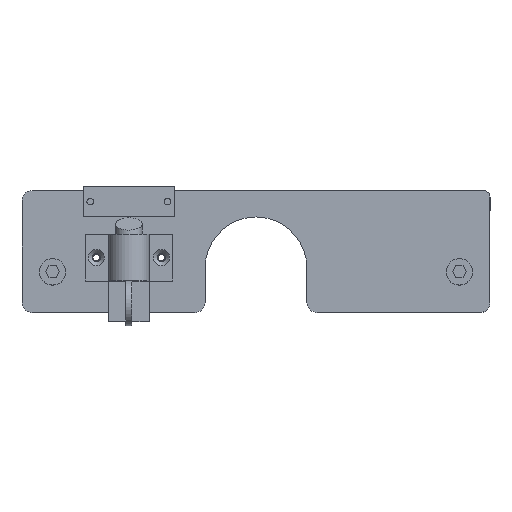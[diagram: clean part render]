
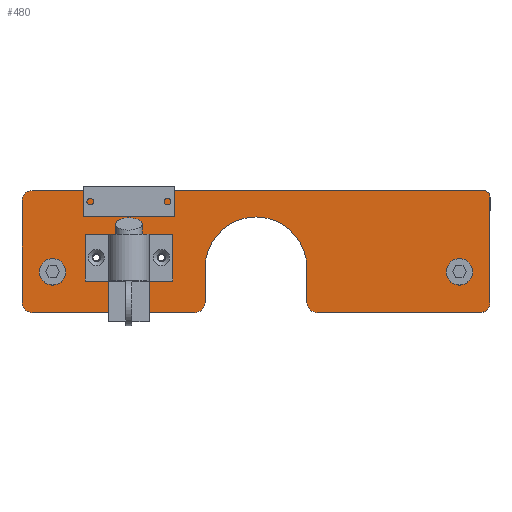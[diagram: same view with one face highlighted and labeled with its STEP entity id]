
A CAD part, top view. The second image highlights one B-rep face of the part: STEP entity #480.
In plain terms, the highlighted planar face has unit normal (0, 0, 1).
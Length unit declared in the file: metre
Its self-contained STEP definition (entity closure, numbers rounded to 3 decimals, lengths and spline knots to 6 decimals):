
#480=ADVANCED_FACE('411:4',(#876,#877,#878,#879,#880),#881,.F.);
#876=FACE_BOUND('',#1278,.T.);
#877=FACE_BOUND('',#1279,.T.);
#878=FACE_BOUND('',#1280,.T.);
#879=FACE_OUTER_BOUND('',#1281,.T.);
#880=FACE_BOUND('',#1282,.T.);
#881=PLANE('',#1283);
#1278=EDGE_LOOP('',(#1876));
#1279=EDGE_LOOP('',(#1877));
#1280=EDGE_LOOP('',(#1878));
#1281=EDGE_LOOP('',(#1879,#1880,#1881,#1882,#1883,#1884,#1885,#1886,#1887,#1888,#1889,#1890,#1891,#1892));
#1282=EDGE_LOOP('',(#1893));
#1283=AXIS2_PLACEMENT_3D('',#1894,#1895,#1896);
#1876=ORIENTED_EDGE('',*,*,#2469,.F.);
#1877=ORIENTED_EDGE('',*,*,#2470,.F.);
#1878=ORIENTED_EDGE('',*,*,#2471,.F.);
#1879=ORIENTED_EDGE('',*,*,#2472,.F.);
#1880=ORIENTED_EDGE('',*,*,#2473,.T.);
#1881=ORIENTED_EDGE('',*,*,#2474,.F.);
#1882=ORIENTED_EDGE('',*,*,#2475,.T.);
#1883=ORIENTED_EDGE('',*,*,#2476,.F.);
#1884=ORIENTED_EDGE('',*,*,#2477,.T.);
#1885=ORIENTED_EDGE('',*,*,#2478,.T.);
#1886=ORIENTED_EDGE('',*,*,#2479,.T.);
#1887=ORIENTED_EDGE('',*,*,#2480,.F.);
#1888=ORIENTED_EDGE('',*,*,#2481,.T.);
#1889=ORIENTED_EDGE('',*,*,#2482,.F.);
#1890=ORIENTED_EDGE('',*,*,#2483,.T.);
#1891=ORIENTED_EDGE('',*,*,#2484,.F.);
#1892=ORIENTED_EDGE('',*,*,#2485,.T.);
#1893=ORIENTED_EDGE('',*,*,#2486,.F.);
#1894=CARTESIAN_POINT('',(-0.184979,-0.058178,-0.030459));
#1895=DIRECTION('',(0.,0.,-1.0));
#1896=DIRECTION('',(0.,1.0,0.));
#2469=EDGE_CURVE('411:4913',#2865,#2865,#2866,.T.);
#2470=EDGE_CURVE('411:4819',#2867,#2867,#2868,.T.);
#2471=EDGE_CURVE('400:1758',#2869,#2869,#2870,.T.);
#2472=EDGE_CURVE('359:1297',#2871,#2872,#2873,.T.);
#2473=EDGE_CURVE('409:716',#2871,#2874,#2875,.F.);
#2474=EDGE_CURVE('399:979',#2876,#2874,#2877,.F.);
#2475=EDGE_CURVE('399:5409',#2876,#2878,#2879,.F.);
#2476=EDGE_CURVE('399:971',#2880,#2878,#2881,.T.);
#2477=EDGE_CURVE('399:1020',#2880,#2882,#2883,.T.);
#2478=EDGE_CURVE('399:1016',#2882,#2884,#2885,.T.);
#2479=EDGE_CURVE('399:6150',#2884,#2886,#2887,.F.);
#2480=EDGE_CURVE('399:1030',#2888,#2886,#2889,.F.);
#2481=EDGE_CURVE('399:8975',#2888,#2890,#2891,.F.);
#2482=EDGE_CURVE('359:1303',#2892,#2890,#2893,.T.);
#2483=EDGE_CURVE('399:10626',#2892,#2894,#2895,.F.);
#2484=EDGE_CURVE('359:1306',#2896,#2894,#2897,.T.);
#2485=EDGE_CURVE('399:11306',#2896,#2872,#2898,.F.);
#2486=EDGE_CURVE('400:848',#2899,#2899,#2900,.T.);
#2865=VERTEX_POINT('',#3438);
#2866=CIRCLE('',#3439,0.00165);
#2867=VERTEX_POINT('',#3440);
#2868=CIRCLE('',#3441,0.00165);
#2869=VERTEX_POINT('',#3442);
#2870=CIRCLE('',#3443,0.00425);
#2871=VERTEX_POINT('',#3444);
#2872=VERTEX_POINT('',#3445);
#2873=LINE('',#3446,#3447);
#2874=VERTEX_POINT('',#3448);
#2875=CIRCLE('',#3449,0.005);
#2876=VERTEX_POINT('',#3450);
#2877=LINE('',#3451,#3452);
#2878=VERTEX_POINT('',#3453);
#2879=CIRCLE('',#3454,0.005);
#2880=VERTEX_POINT('',#3455);
#2881=LINE('',#3456,#3457);
#2882=VERTEX_POINT('',#3458);
#2883=CIRCLE('',#3459,0.025);
#2884=VERTEX_POINT('',#3460);
#2885=LINE('',#3461,#3462);
#2886=VERTEX_POINT('',#3463);
#2887=CIRCLE('',#3464,0.005);
#2888=VERTEX_POINT('',#3465);
#2889=LINE('',#3466,#3467);
#2890=VERTEX_POINT('',#3468);
#2891=CIRCLE('',#3469,0.00478);
#2892=VERTEX_POINT('',#3470);
#2893=LINE('',#3471,#3472);
#2894=VERTEX_POINT('',#3473);
#2895=CIRCLE('',#3474,0.00327);
#2896=VERTEX_POINT('',#3475);
#2897=LINE('',#3476,#3477);
#2898=CIRCLE('',#3478,0.005);
#2899=VERTEX_POINT('',#3479);
#2900=CIRCLE('',#3480,0.00425);
#3438=CARTESIAN_POINT('',(-0.139079,-0.052678,-0.030459));
#3439=AXIS2_PLACEMENT_3D('',#3908,#3909,#3910);
#3440=CARTESIAN_POINT('',(-0.171079,-0.052678,-0.030459));
#3441=AXIS2_PLACEMENT_3D('',#3911,#3912,#3913);
#3442=CARTESIAN_POINT('',(-0.189979,-0.059678,-0.030459));
#3443=AXIS2_PLACEMENT_3D('',#3914,#3915,#3916);
#3444=CARTESIAN_POINT('',(-0.209229,-0.074678,-0.030459));
#3445=CARTESIAN_POINT('',(-0.209229,-0.024678,-0.030459));
#3446=CARTESIAN_POINT('',(-0.209229,-0.058178,-0.030459));
#3447=VECTOR('',#3917,1.0);
#3448=CARTESIAN_POINT('',(-0.204229,-0.079678,-0.030459));
#3449=AXIS2_PLACEMENT_3D('',#3918,#3919,#3920);
#3450=CARTESIAN_POINT('',(-0.124229,-0.079678,-0.030459));
#3451=CARTESIAN_POINT('',(-0.206479,-0.079678,-0.030459));
#3452=VECTOR('',#3921,1.0);
#3453=CARTESIAN_POINT('',(-0.119229,-0.074678,-0.030459));
#3454=AXIS2_PLACEMENT_3D('',#3922,#3923,#3924);
#3455=CARTESIAN_POINT('',(-0.119229,-0.057678,-0.030459));
#3456=CARTESIAN_POINT('',(-0.119229,-0.057678,-0.030459));
#3457=VECTOR('',#3925,1.0);
#3458=CARTESIAN_POINT('',(-0.069229,-0.057678,-0.030459));
#3459=AXIS2_PLACEMENT_3D('',#3926,#3927,#3928);
#3460=CARTESIAN_POINT('',(-0.069229,-0.074678,-0.030459));
#3461=CARTESIAN_POINT('',(-0.069229,-0.057678,-0.030459));
#3462=VECTOR('',#3929,1.0);
#3463=CARTESIAN_POINT('',(-0.064229,-0.079678,-0.030459));
#3464=AXIS2_PLACEMENT_3D('',#3930,#3931,#3932);
#3465=CARTESIAN_POINT('',(0.015991,-0.079678,-0.030459));
#3466=CARTESIAN_POINT('',(-0.206479,-0.079678,-0.030459));
#3467=VECTOR('',#3933,1.0);
#3468=CARTESIAN_POINT('',(0.020771,-0.074898,-0.030459));
#3469=AXIS2_PLACEMENT_3D('',#3934,#3935,#3936);
#3470=CARTESIAN_POINT('',(0.020771,-0.022948,-0.030459));
#3471=CARTESIAN_POINT('',(0.020771,-0.058178,-0.030459));
#3472=VECTOR('',#3937,1.0);
#3473=CARTESIAN_POINT('',(0.017501,-0.019678,-0.030459));
#3474=AXIS2_PLACEMENT_3D('',#3938,#3939,#3940);
#3475=CARTESIAN_POINT('',(-0.204229,-0.019678,-0.030459));
#3476=CARTESIAN_POINT('',(-0.184979,-0.019678,-0.030459));
#3477=VECTOR('',#3941,1.0);
#3478=AXIS2_PLACEMENT_3D('',#3942,#3943,#3944);
#3479=CARTESIAN_POINT('',(0.010021,-0.059678,-0.030459));
#3480=AXIS2_PLACEMENT_3D('',#3945,#3946,#3947);
#3908=CARTESIAN_POINT('',(-0.140729,-0.052678,-0.030459));
#3909=DIRECTION('',(0.,0.,1.0));
#3910=DIRECTION('',(1.0,0.0,0.));
#3911=CARTESIAN_POINT('',(-0.172729,-0.052678,-0.030459));
#3912=DIRECTION('',(0.,0.,1.0));
#3913=DIRECTION('',(1.0,0.0,0.));
#3914=CARTESIAN_POINT('',(-0.194229,-0.059678,-0.030459));
#3915=DIRECTION('',(0.,0.,1.0));
#3916=DIRECTION('',(1.0,0.0,0.));
#3917=DIRECTION('',(0.,1.0,0.));
#3918=CARTESIAN_POINT('',(-0.204229,-0.074678,-0.030459));
#3919=DIRECTION('',(0.,0.,-1.0));
#3920=DIRECTION('',(-1.0,0.0,0.));
#3921=DIRECTION('',(1.0,0.,0.));
#3922=CARTESIAN_POINT('',(-0.124229,-0.074678,-0.030459));
#3923=DIRECTION('',(0.,0.,-1.0));
#3924=DIRECTION('',(-1.0,0.0,0.));
#3925=DIRECTION('',(0.,-1.0,0.));
#3926=CARTESIAN_POINT('',(-0.094229,-0.057678,-0.030459));
#3927=DIRECTION('',(0.,0.,-1.0));
#3928=DIRECTION('',(-1.0,0.0,0.));
#3929=DIRECTION('',(0.,-1.0,0.));
#3930=CARTESIAN_POINT('',(-0.064229,-0.074678,-0.030459));
#3931=DIRECTION('',(0.,0.,-1.0));
#3932=DIRECTION('',(-1.0,0.0,0.));
#3933=DIRECTION('',(1.0,0.,0.));
#3934=CARTESIAN_POINT('',(0.015991,-0.074898,-0.030459));
#3935=DIRECTION('',(0.,0.,-1.0));
#3936=DIRECTION('',(-1.0,0.0,0.));
#3937=DIRECTION('',(0.,-1.0,0.));
#3938=CARTESIAN_POINT('',(0.017501,-0.022948,-0.030459));
#3939=DIRECTION('',(0.,0.,-1.0));
#3940=DIRECTION('',(-1.0,0.0,0.));
#3941=DIRECTION('',(1.0,0.,0.));
#3942=CARTESIAN_POINT('',(-0.204229,-0.024678,-0.030459));
#3943=DIRECTION('',(0.,0.,-1.0));
#3944=DIRECTION('',(-1.0,0.0,0.));
#3945=CARTESIAN_POINT('',(0.005771,-0.059678,-0.030459));
#3946=DIRECTION('',(0.,0.,1.0));
#3947=DIRECTION('',(1.0,0.0,0.));
